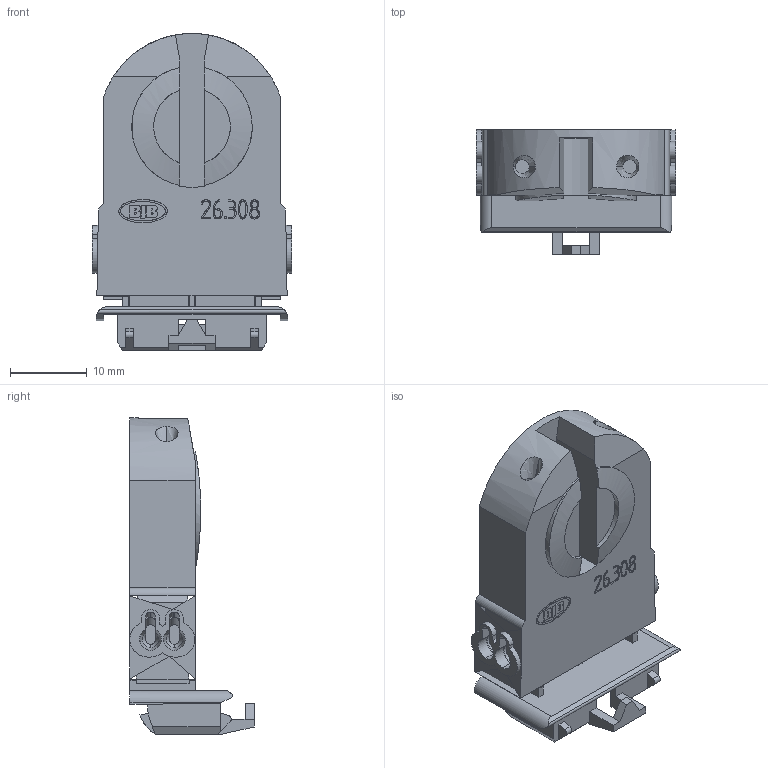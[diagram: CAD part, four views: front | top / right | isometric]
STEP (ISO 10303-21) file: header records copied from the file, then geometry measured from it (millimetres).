
FILE_DESCRIPTION(('CAx-IF Rec.Pracs.---Model Styling and Organization---1.2---2011-12-15','CAx-IF Rec.Pracs.---Geometric and Assembly Validation Properties---4.1---2014-06-16','CAx-IF Rec.Pracs.---PMI Polyline Presentation---2.0---2013-05-24'),'2;1');
FILE_NAME('00TYY0CY06.stp','2017-11-20T12:54:06+01:00',(''),(''),'STEP Interface 4.1 by CT CoreTechnologie','3D_Evolution4.1 by CT CoreTechnologie','');
FILE_SCHEMA(('AP203_CONFIGURATION_CONTROLLED_3D_DESIGN_OF_MECHANICAL_PARTS_AND_ASSEMBLIES_MIM_LF'));
Length unit declared in the file: millimetre
Products named in the file (3): 00T-Y0C-06; 00T-Y02-06; 00T-Y00-05
Assembly tree (2 placements, depth 2):
  00T-Y0C-06
    00T-Y02-06
    00T-Y00-05
Bounding box: 26 x 16.23 x 41.33 mm (x, y, z)
Volume: 7030.7 mm3; surface area: 4980.3 mm2
Topology: 2 solids, 2 shells, 395 faces, 1097 edges, 723 vertices
Faces by surface type: plane 250, cylinder 85, bspline 60
Entity records: 17799 total; most frequent: CARTESIAN_POINT 4651, ORIENTED_EDGE 2164, DIRECTION 1891, EDGE_CURVE 1082, VECTOR 779, LINE 779, VERTEX_POINT 720, AXIS2_PLACEMENT_3D 556
